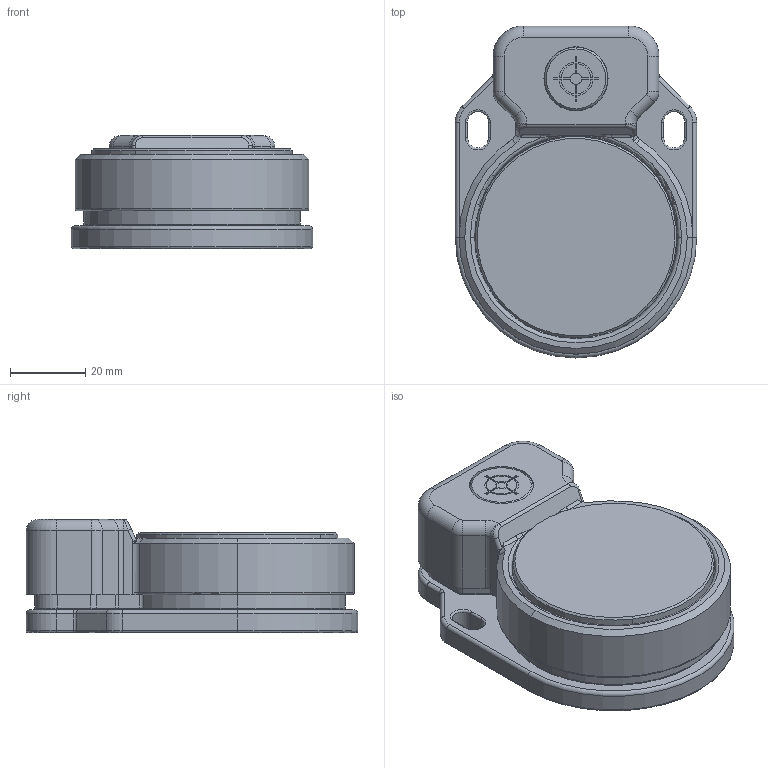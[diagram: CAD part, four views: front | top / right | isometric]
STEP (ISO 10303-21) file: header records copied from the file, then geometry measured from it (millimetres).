
FILE_DESCRIPTION (( 'STEP AP203' ), '1' );
FILE_NAME ('460-Actuator MGL-2SS (step format).STEP', '2014-07-30T12:10:35', ( '' ), ( '' ), 'SwSTEP 2.0', 'SolidWorks 2013', '' );
FILE_SCHEMA (( 'CONFIG_CONTROL_DESIGN' ));
Length unit declared in the file: millimetre
Products named in the file (1): 460-Actuator MGL-2SS (step format)
Bounding box: 64 x 88 x 30 mm (x, y, z)
Volume: 82484.2 mm3; surface area: 50618.1 mm2
Topology: 7 solids, 7 shells, 759 faces, 1766 edges, 1035 vertices
Faces by surface type: cylinder 321, torus 188, plane 158, cone 53, bspline 21, sphere 18
Entity records: 22083 total; most frequent: CARTESIAN_POINT 4310, DIRECTION 4123, ORIENTED_EDGE 3496, EDGE_CURVE 1748, AXIS2_PLACEMENT_3D 1712, VERTEX_POINT 1033, CIRCLE 973, EDGE_LOOP 825
